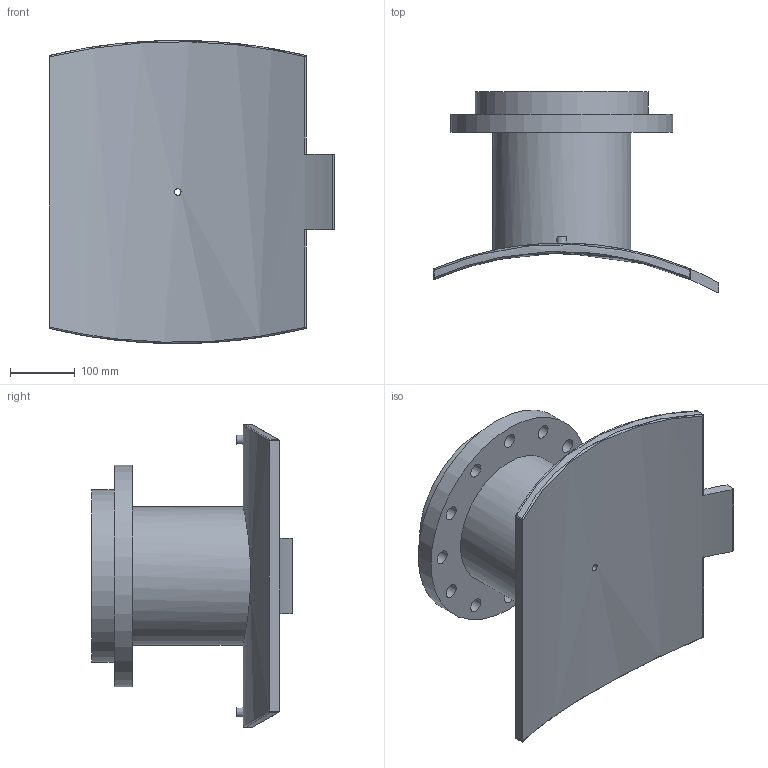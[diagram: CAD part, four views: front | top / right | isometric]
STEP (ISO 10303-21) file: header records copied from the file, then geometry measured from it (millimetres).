
FILE_DESCRIPTION(/* description */ ('PLASSON FLANGED BRANCH SADDLE 1000X200'),/* implementation_level */ '2;1');
FILE_NAME(/* name */ 'C:\Dropbox\KIMPROJECTS-Inventor 2019\99-16-3568-Processing\ElectroFusion Fittings\495904_495903\stp\4959031000200T.stp',/* time_stamp */ '2024-04-03T21:03:00+02:00',/* author */ ('KIM'),/* organization */ (''),/* preprocessor_version */ 'ST-DEVELOPER v17.2',/* originating_system */ 'Autodesk Inventor 2019',/* authorisation */ '');
FILE_SCHEMA (('AUTOMOTIVE_DESIGN { 1 0 10303 214 3 1 1 }'));
Length unit declared in the file: millimetre
Products named in the file (1): 4959031000200T
Bounding box: 443 x 311.28 x 469.59 mm (x, y, z)
Volume: 8718152.8 mm3; surface area: 854858.5 mm2
Topology: 1 solids, 1 shells, 63 faces, 166 edges, 128 vertices
Faces by surface type: cylinder 36, plane 17, sphere 4, bspline 4, cone 2
Full cylindrical faces by diameter (mm): 4 x2, 10 x2, 10.4 x1, 16 x1, 22 x12, 163 x1, 214.4 x1, 268 x1, 344 x1
Entity records: 2610 total; most frequent: CARTESIAN_POINT 953, DIRECTION 332, ORIENTED_EDGE 304, EDGE_CURVE 152, AXIS2_PLACEMENT_3D 140, VERTEX_POINT 102, EDGE_LOOP 100, CIRCLE 80
